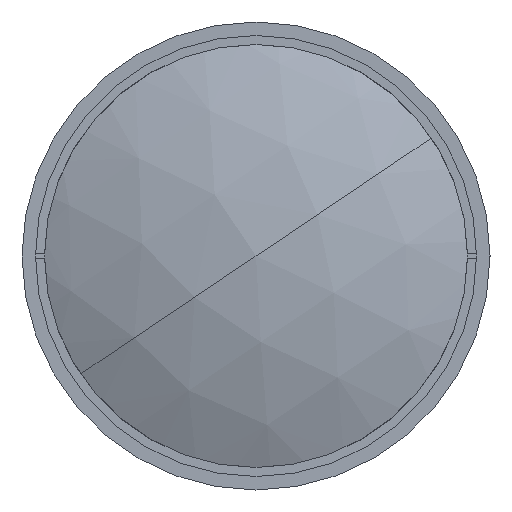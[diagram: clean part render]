
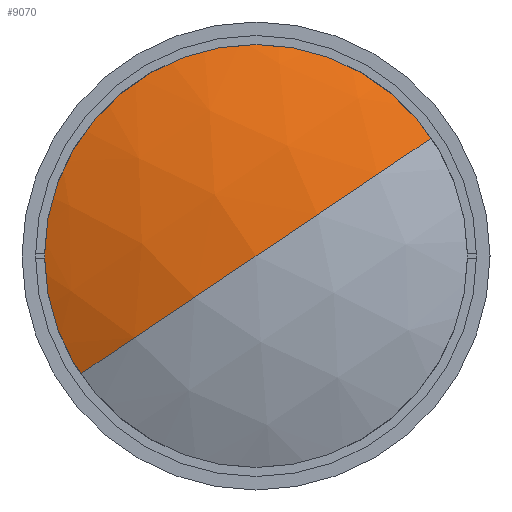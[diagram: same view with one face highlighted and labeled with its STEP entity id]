
A CAD part, left-side view. The second image highlights one B-rep face of the part: STEP entity #9070.
In plain terms, the highlighted spherical face has radius 114.92 mm.
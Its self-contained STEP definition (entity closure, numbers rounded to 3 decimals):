
#125 = ORIENTED_EDGE ( 'NONE', *, *, #9134, .T. ) ;
#1144 = DIRECTION ( 'NONE',  ( 0., 0.558, 0.83 ) ) ;
#1233 = EDGE_LOOP ( 'NONE', ( #13102, #125, #4091 ) ) ;
#1636 = VERTEX_POINT ( 'NONE', #16356 ) ;
#3329 = DIRECTION ( 'NONE',  ( 0., -0.558, -0.83 ) ) ;
#3528 = DIRECTION ( 'NONE',  ( -1., 0., 0. ) ) ;
#4091 = ORIENTED_EDGE ( 'NONE', *, *, #9562, .F. ) ;
#5243 = CIRCLE ( 'NONE', #14795, 114.92 ) ;
#5251 = CARTESIAN_POINT ( 'NONE',  ( 116.92, 0., 0. ) ) ;
#5659 = AXIS2_PLACEMENT_3D ( 'NONE', #11307, #3329, #12628 ) ;
#6214 = AXIS2_PLACEMENT_3D ( 'NONE', #11520, #3528, #12839 ) ;
#6458 = CARTESIAN_POINT ( 'NONE',  ( 116.92, 0., 0. ) ) ;
#6562 = DIRECTION ( 'NONE',  ( 0., -0.83, 0.558 ) ) ;
#8590 = CIRCLE ( 'NONE', #5659, 114.92 ) ;
#8952 = VERTEX_POINT ( 'NONE', #16282 ) ;
#9070 = ADVANCED_FACE ( 'NONE', ( #13151 ), #12740, .T. ) ;
#9123 = VERTEX_POINT ( 'NONE', #15672 ) ;
#9134 = EDGE_CURVE ( 'NONE', #1636, #9123, #5243, .T. ) ;
#9213 = CIRCLE ( 'NONE', #6214, 48. ) ;
#9562 = EDGE_CURVE ( 'NONE', #8952, #9123, #8590, .T. ) ;
#9917 = EDGE_CURVE ( 'NONE', #8952, #1636, #9213, .T. ) ;
#10514 = DIRECTION ( 'NONE',  ( 0., -0.83, 0.558 ) ) ;
#11307 = CARTESIAN_POINT ( 'NONE',  ( 116.92, 0., 0. ) ) ;
#11520 = CARTESIAN_POINT ( 'NONE',  ( 12.504, 0., 0. ) ) ;
#12628 = DIRECTION ( 'NONE',  ( 0., 0.83, -0.558 ) ) ;
#12740 = SPHERICAL_SURFACE ( 'NONE', #15633, 114.92 ) ;
#12839 = DIRECTION ( 'NONE',  ( 0., 0.558, 0.83 ) ) ;
#13102 = ORIENTED_EDGE ( 'NONE', *, *, #9917, .T. ) ;
#13151 = FACE_OUTER_BOUND ( 'NONE', #1233, .T. ) ;
#14471 = DIRECTION ( 'NONE',  ( 0., 0.558, 0.83 ) ) ;
#14795 = AXIS2_PLACEMENT_3D ( 'NONE', #5251, #14471, #6562 ) ;
#15633 = AXIS2_PLACEMENT_3D ( 'NONE', #6458, #1144, #10514 ) ;
#15672 = CARTESIAN_POINT ( 'NONE',  ( 2., 0., 0. ) ) ;
#16282 = CARTESIAN_POINT ( 'NONE',  ( 12.504, -39.828, 26.79 ) ) ;
#16356 = CARTESIAN_POINT ( 'NONE',  ( 12.504, 39.828, -26.79 ) ) ;
